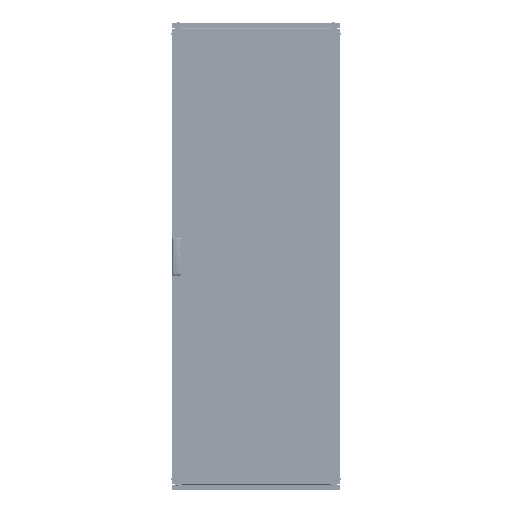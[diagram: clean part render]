
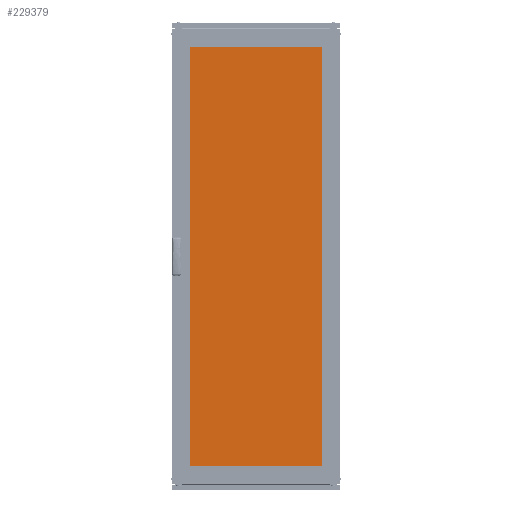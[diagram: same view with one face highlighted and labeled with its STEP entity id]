
A CAD part, top view. The second image highlights one B-rep face of the part: STEP entity #229379.
In plain terms, the highlighted planar face has unit normal (0, 0, 1).
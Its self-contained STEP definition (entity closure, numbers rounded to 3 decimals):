
#34 = ORIENTED_EDGE ( 'NONE', *, *, #221386, .T. ) ;
#5162 = LINE ( 'NONE', #193375, #173609 ) ;
#8372 = FACE_OUTER_BOUND ( 'NONE', #148039, .T. ) ;
#12392 = VERTEX_POINT ( 'NONE', #40187 ) ;
#13890 = VECTOR ( 'NONE', #183318, 1000. ) ;
#24295 = DIRECTION ( 'NONE',  ( 0., 1., 0. ) ) ;
#28673 = CARTESIAN_POINT ( 'NONE',  ( -330., 1010., 5. ) ) ;
#36245 = AXIS2_PLACEMENT_3D ( 'NONE', #139260, #232748, #141721 ) ;
#36331 = ORIENTED_EDGE ( 'NONE', *, *, #179466, .T. ) ;
#40187 = CARTESIAN_POINT ( 'NONE',  ( -330., -1010., 5. ) ) ;
#56918 = ORIENTED_EDGE ( 'NONE', *, *, #120184, .T. ) ;
#65663 = PLANE ( 'NONE',  #36245 ) ;
#66354 = VECTOR ( 'NONE', #173769, 1000. ) ;
#66624 = CARTESIAN_POINT ( 'NONE',  ( 330., -1010., 5. ) ) ;
#72317 = CARTESIAN_POINT ( 'NONE',  ( 330., 1010., 5. ) ) ;
#73451 = EDGE_CURVE ( 'NONE', #150860, #12392, #108547, .T. ) ;
#85308 = LINE ( 'NONE', #66624, #213708 ) ;
#88597 = CARTESIAN_POINT ( 'NONE',  ( -330., -1010., 5. ) ) ;
#108547 = LINE ( 'NONE', #88597, #13890 ) ;
#115264 = LINE ( 'NONE', #152679, #66354 ) ;
#120184 = EDGE_CURVE ( 'NONE', #124811, #150860, #115264, .T. ) ;
#124811 = VERTEX_POINT ( 'NONE', #72317 ) ;
#139260 = CARTESIAN_POINT ( 'NONE',  ( 0., 0., 5. ) ) ;
#141721 = DIRECTION ( 'NONE',  ( -1., 0., 0. ) ) ;
#148039 = EDGE_LOOP ( 'NONE', ( #36331, #56918, #219955, #34 ) ) ;
#150860 = VERTEX_POINT ( 'NONE', #28673 ) ;
#152679 = CARTESIAN_POINT ( 'NONE',  ( -330., 1010., 5. ) ) ;
#173609 = VECTOR ( 'NONE', #195854, 1000. ) ;
#173769 = DIRECTION ( 'NONE',  ( -1., 0., 0. ) ) ;
#179466 = EDGE_CURVE ( 'NONE', #207745, #124811, #85308, .T. ) ;
#183318 = DIRECTION ( 'NONE',  ( 0., -1., 0. ) ) ;
#193375 = CARTESIAN_POINT ( 'NONE',  ( -330., -1010., 5. ) ) ;
#195854 = DIRECTION ( 'NONE',  ( 1., 0., 0. ) ) ;
#207745 = VERTEX_POINT ( 'NONE', #224084 ) ;
#213708 = VECTOR ( 'NONE', #24295, 1000. ) ;
#219955 = ORIENTED_EDGE ( 'NONE', *, *, #73451, .T. ) ;
#221386 = EDGE_CURVE ( 'NONE', #12392, #207745, #5162, .T. ) ;
#224084 = CARTESIAN_POINT ( 'NONE',  ( 330., -1010., 5. ) ) ;
#229379 = ADVANCED_FACE ( 'NONE', ( #8372 ), #65663, .F. ) ;
#232748 = DIRECTION ( 'NONE',  ( 0., 0., -1. ) ) ;
